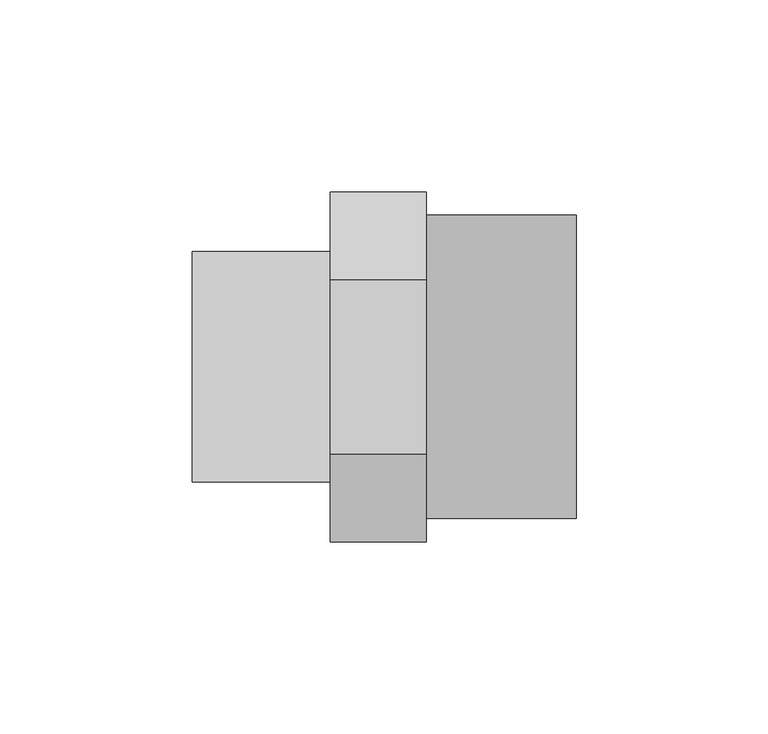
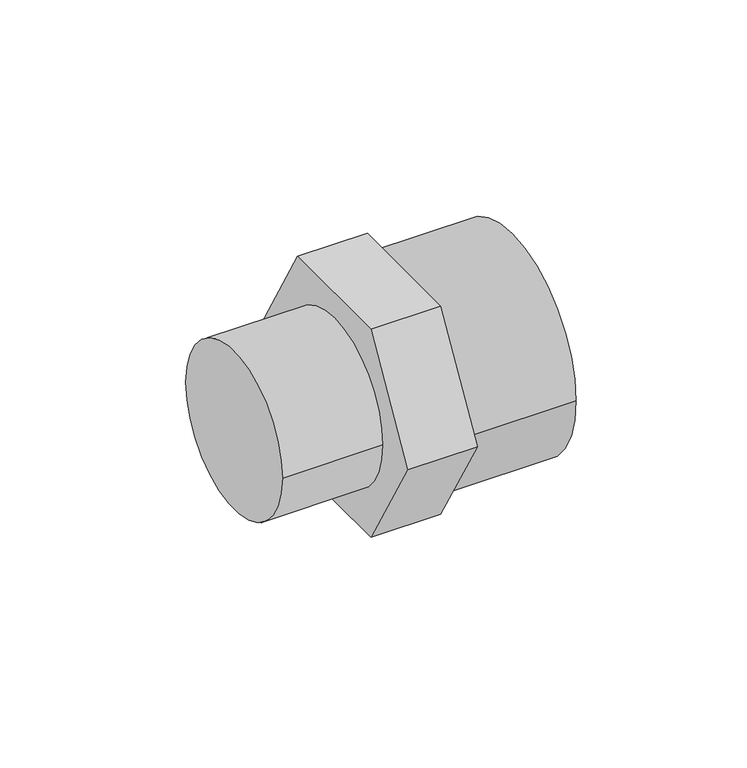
"""IFC4 building model written with IfcOpenShell, lengths in millimetres: pipe fitting geometry, 01011006 : Mamelons de réductio MxF."""

from ifc_helpers import new_model, si_unit, point, frame, origin, origin_2d, place, context, project, spatial, polyline, circle_curve, trimmed, segment, composite_curve, outline, extrude, source, transform, mapped, element, save


def pipe_fitting_f89e6d90(model_context):
    return source(origin(), model_context, "Body", "SweptSolid", [
        extrude(outline(composite_curve([segment(trimmed(circle_curve(origin_2d(), 30.0), [point((30.0, 0.0))], [point((-30.0, 0.0))], False, "CARTESIAN"), True, "CONTINUOUS"), segment(trimmed(circle_curve(origin_2d(), 30.0), [point((-30.0, 0.0))], [point((30.0, 0.0))], False, "CARTESIAN"), True, "CONTINUOUS")], self_intersect=False)), frame((0.0, 0.0, 0.0), z_axis=(1.0, 0.0, 0.0), x_axis=(0.0, 1.0, 0.0)), (0.0, 0.0, 1.0), 36.0),
        extrude(outline(polyline([(-22.8053356, 39.5), (22.8053356, 39.5), (45.6106713, 0.0), (22.8053356, -39.5), (-22.8053356, -39.5), (-45.6106713, 0.0), (-22.8053356, 39.5)])), frame((36.0, 0.0, 0.0), z_axis=(1.0, 0.0, 0.0), x_axis=(0.0, 1.0, 0.0)), (0.0, 0.0, 1.0), 25.0),
        extrude(outline(composite_curve([segment(trimmed(circle_curve(origin_2d(), 39.5), [point((-39.5, 0.0))], [point((39.5, 0.0))], False, "CARTESIAN"), True, "CONTINUOUS"), segment(trimmed(circle_curve(origin_2d(), 39.5), [point((39.5, 0.0))], [point((-39.5, 0.0))], False, "CARTESIAN"), True, "CONTINUOUS")], self_intersect=False)), frame((61.0, 0.0, 0.0), z_axis=(1.0, 0.0, 0.0), x_axis=(0.0, 1.0, 0.0)), (0.0, 0.0, 1.0), 39.0),
    ])


if __name__ == "__main__":
    model = new_model("IFC4")
    model_context = context("Model", 3, world=origin())
    ifc_project = project(units=[si_unit("LENGTHUNIT", "METRE", prefix="MILLI")], contexts=[model_context])
    site = spatial("IfcSite", under=ifc_project)
    building = spatial("IfcBuilding", under=site)
    placement = place(None, origin())
    pipe_fitting_shape = pipe_fitting_f89e6d90(model_context)
    element("IfcPipeFitting", 1, ObjectType="01011006 : Mamelons de réductio MxF", at=placement, inside=building, context=model_context, shape_type="MappedRepresentation", body=[
        mapped(pipe_fitting_shape, transform((0.0, 0.0, 0.0), x_axis=(1.0, 0.0, 0.0), y_axis=(0.0, 1.0, 0.0), z_axis=(0.0, 0.0, 1.0))),
    ])
    save(model, "model.ifc")
